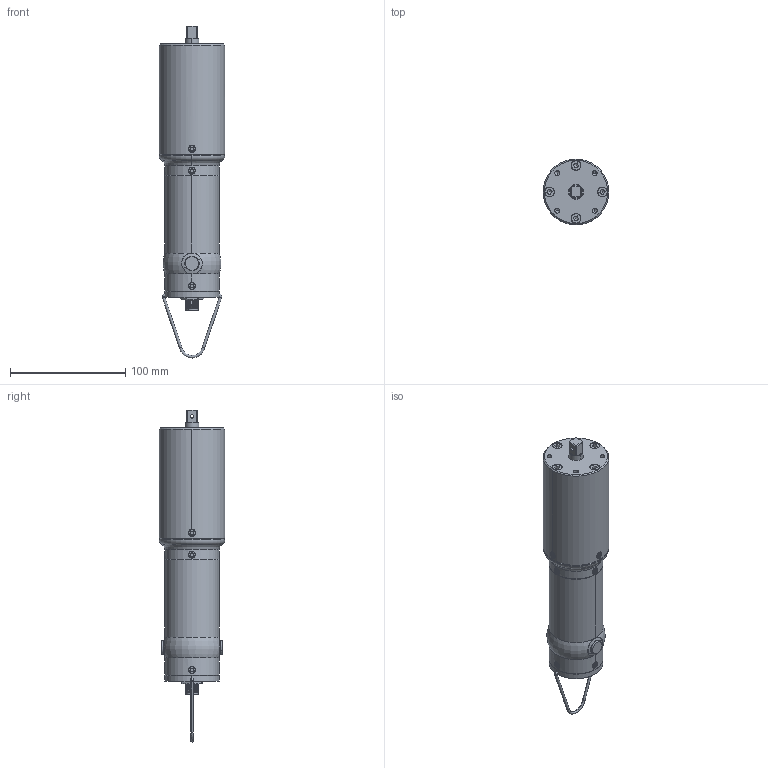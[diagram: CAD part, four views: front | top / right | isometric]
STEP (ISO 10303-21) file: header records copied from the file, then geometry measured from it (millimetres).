
FILE_DESCRIPTION (( 'STEP AP214' ), '1' );
FILE_NAME ('Pluto 35CA-SR.STEP', '2014-01-07T08:34:12', ( '' ), ( '' ), 'SwSTEP 2.0', 'SolidWorks 2013', '' );
FILE_SCHEMA (( 'AUTOMOTIVE_DESIGN' ));
Length unit declared in the file: millimetre
Products named in the file (1): Pluto 35CA-SR
Bounding box: 57 x 57 x 288.19 mm (x, y, z)
Volume: 324022.8 mm3; surface area: 113283 mm2
Topology: 26 solids, 26 shells, 891 faces, 2170 edges, 1334 vertices
Faces by surface type: cylinder 468, plane 210, cone 122, torus 56, bspline 35
Entity records: 49680 total; most frequent: CARTESIAN_POINT 18777, DIRECTION 4525, ORIENTED_EDGE 4272, EDGE_CURVE 2136, AXIS2_PLACEMENT_3D 1854, VERTEX_POINT 1334, EDGE_LOOP 1000, CIRCLE 997
